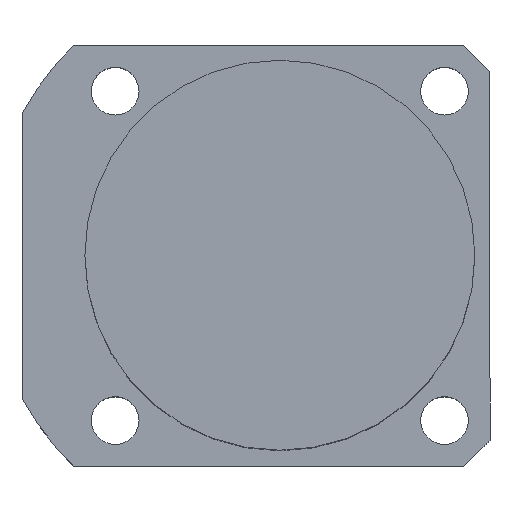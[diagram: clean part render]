
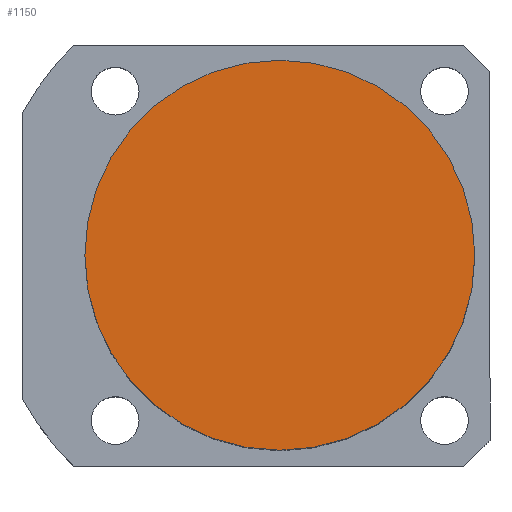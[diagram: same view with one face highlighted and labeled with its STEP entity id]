
A CAD part, top view. The second image highlights one B-rep face of the part: STEP entity #1150.
In plain terms, the highlighted planar face has unit normal (0, 0, 1).
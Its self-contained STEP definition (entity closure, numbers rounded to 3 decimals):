
#75 = AXIS2_PLACEMENT_3D ( 'NONE', #344, #1610, #1732 ) ;
#109 = CARTESIAN_POINT ( 'NONE',  ( 0., 0., 99.5 ) ) ;
#178 = ORIENTED_EDGE ( 'NONE', *, *, #857, .T. ) ;
#257 = VERTEX_POINT ( 'NONE', #355 ) ;
#344 = CARTESIAN_POINT ( 'NONE',  ( 0., 0., 99.5 ) ) ;
#355 = CARTESIAN_POINT ( 'NONE',  ( -45., 0., 99.5 ) ) ;
#629 = DIRECTION ( 'NONE',  ( 0., 0., 1. ) ) ;
#666 = ORIENTED_EDGE ( 'NONE', *, *, #1759, .T. ) ;
#723 = VERTEX_POINT ( 'NONE', #1034 ) ;
#726 = FACE_OUTER_BOUND ( 'NONE', #829, .T. ) ;
#770 = DIRECTION ( 'NONE',  ( 1., 0., 0. ) ) ;
#829 = EDGE_LOOP ( 'NONE', ( #178, #666 ) ) ;
#857 = EDGE_CURVE ( 'NONE', #257, #723, #1705, .T. ) ;
#1034 = CARTESIAN_POINT ( 'NONE',  ( 45., 0., 99.5 ) ) ;
#1150 = ADVANCED_FACE ( 'NONE', ( #726 ), #1331, .T. ) ;
#1181 = DIRECTION ( 'NONE',  ( 1., 0., 0. ) ) ;
#1270 = AXIS2_PLACEMENT_3D ( 'NONE', #1345, #1459, #1181 ) ;
#1295 = AXIS2_PLACEMENT_3D ( 'NONE', #109, #629, #770 ) ;
#1331 = PLANE ( 'NONE',  #1270 ) ;
#1345 = CARTESIAN_POINT ( 'NONE',  ( 0., 0., 99.5 ) ) ;
#1354 = CIRCLE ( 'NONE', #1295, 45. ) ;
#1459 = DIRECTION ( 'NONE',  ( 0., 0., 1. ) ) ;
#1610 = DIRECTION ( 'NONE',  ( 0., 0., 1. ) ) ;
#1705 = CIRCLE ( 'NONE', #75, 45. ) ;
#1732 = DIRECTION ( 'NONE',  ( 1., 0., 0. ) ) ;
#1759 = EDGE_CURVE ( 'NONE', #723, #257, #1354, .T. ) ;
